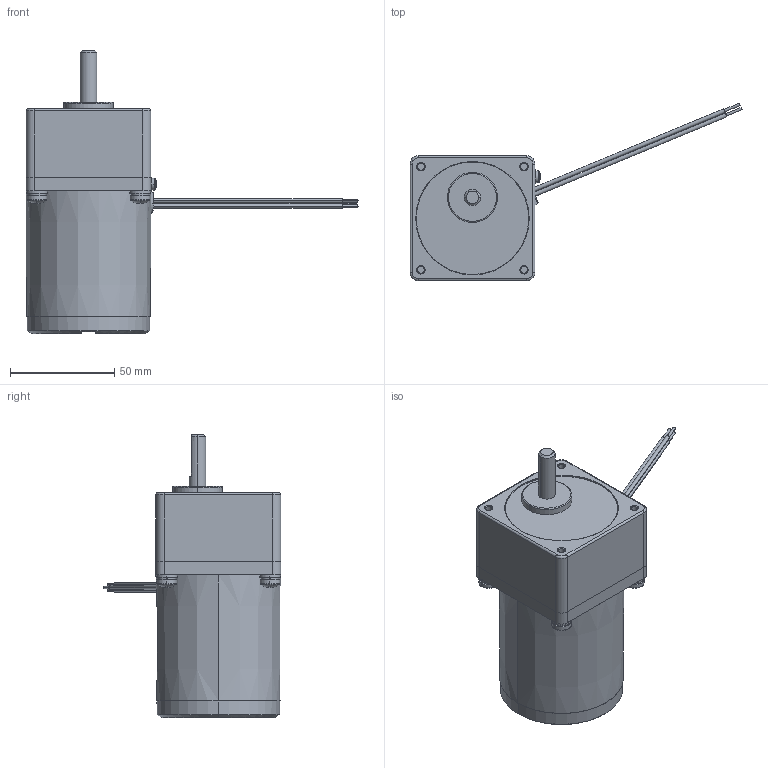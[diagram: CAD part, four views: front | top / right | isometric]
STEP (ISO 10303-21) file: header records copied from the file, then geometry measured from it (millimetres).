
FILE_DESCRIPTION (( 'STEP AP214' ), '1' );
FILE_NAME ('ACWGM006-060-075 Series.STEP', '2009-10-01T15:31:44', ( 'Tim Raines' ), ( 'Anaheim Automation' ), 'SwSTEP 2.0', 'SolidWorks 2009', '' );
FILE_SCHEMA (( 'AUTOMOTIVE_DESIGN' ));
Length unit declared in the file: millimetre
Products named in the file (8): Lock Washer Spring Regular_AI_Regular LW 0.19; Flat Washer Narrow_AM_B18.22M - Plain washer, 4 mm, narrow; Pan Cross Head_AM_B18.6.7M - M3 x 0.5 x 5 Type I Cross Recessed PHMS --5N; Pan Cross Head_AM_B18.6.7M - M5 x 0.8 x 10 Type I Cross Recessed PHMS --10N; ACWGM Series_ACWGM 3-13 Ratio; ACW006-060-075; ACWGM006-060-075 Series; Internal Tooth Lock Washer_AM_B18.21.2M-Internal Tooth Lock Washers_AM3
Assembly tree (16 placements, depth 2):
  ACWGM006-060-075 Series
    Pan Cross Head_AM_B18.6.7M - M5 x 0.8 x 10 Type I Cross Recessed PHMS --10N  x4
    Lock Washer Spring Regular_AI_Regular LW 0.19  x4
    Flat Washer Narrow_AM_B18.22M - Plain washer, 4 mm, narrow  x4
    Internal Tooth Lock Washer_AM_B18.21.2M-Internal Tooth Lock Washers_AM3
    ACW006-060-075
    ACWGM Series_ACWGM 3-13 Ratio
    Pan Cross Head_AM_B18.6.7M - M3 x 0.5 x 5 Type I Cross Recessed PHMS --5N
Bounding box: 159.41 x 85.35 x 136 mm (x, y, z)
Volume: 332230.9 mm3; surface area: 45740.3 mm2
Topology: 17 solids, 17 shells, 393 faces, 887 edges, 560 vertices
Faces by surface type: plane 180, cylinder 157, cone 28, torus 18, sphere 10
Entity records: 10737 total; most frequent: DIRECTION 1617, CARTESIAN_POINT 1424, ORIENTED_EDGE 1326, EDGE_CURVE 663, AXIS2_PLACEMENT_3D 655, VERTEX_POINT 422, CIRCLE 348, EDGE_LOOP 339
